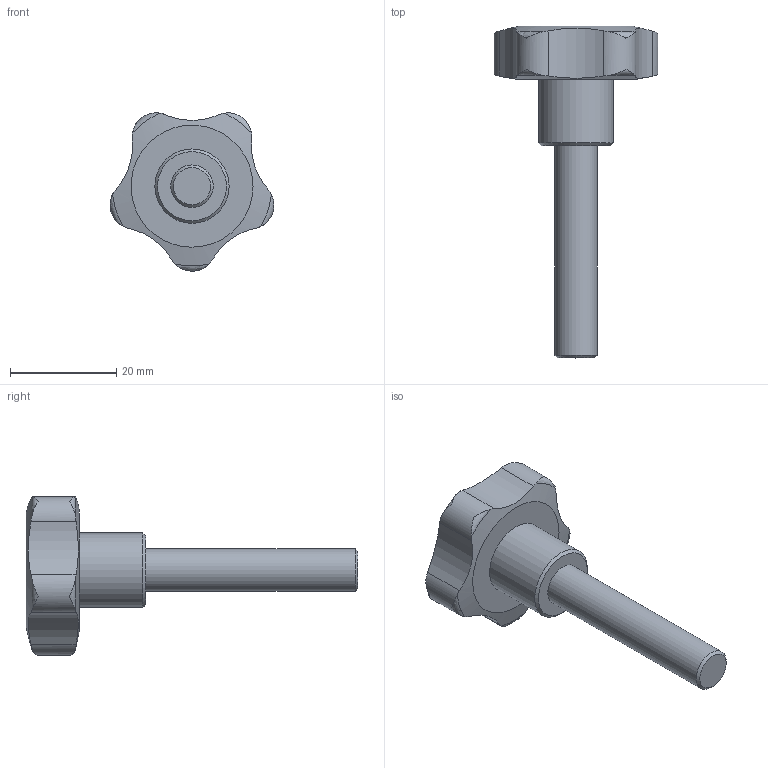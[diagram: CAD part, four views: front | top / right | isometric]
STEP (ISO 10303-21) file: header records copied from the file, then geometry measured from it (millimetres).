
FILE_DESCRIPTION( ( 'STEP AP203' ), '1' );
FILE_NAME( 'C:/Temp/Ganter_Step_05_03_2020/data/2_2/gn_5337_4/gn_5337_4_s/Star knob GN 5337.4-32-M8-40.stp', '2020-03-05T12:09:45', ( 'License CC BY-ND 4.0' ), ( 'CADENAS' ), ' ', 'PARTsolutions', ' ' );
FILE_SCHEMA( ( 'CONFIG_CONTROL_DESIGN' ) );
Length unit declared in the file: millimetre
Products named in the file (1): _Star knob GN 5337.4-32-M8-40
Bounding box: 30.87 x 62.5 x 29.8 mm (x, y, z)
Volume: 9825.2 mm3; surface area: 3641.2 mm2
Topology: 1 solids, 2 shells, 34 faces, 90 edges, 61 vertices
Faces by surface type: cylinder 14, torus 10, plane 5, cone 3, bspline 1, sphere 1
Full cylindrical faces by diameter (mm): 7 x1, 7.2 x1, 8 x1, 14 x1
Entity records: 1439 total; most frequent: CARTESIAN_POINT 674, ORIENTED_EDGE 154, DIRECTION 122, EDGE_CURVE 77, VERTEX_POINT 58, AXIS2_PLACEMENT_3D 56, EDGE_LOOP 46, B_SPLINE_CURVE_WITH_KNOTS 45
